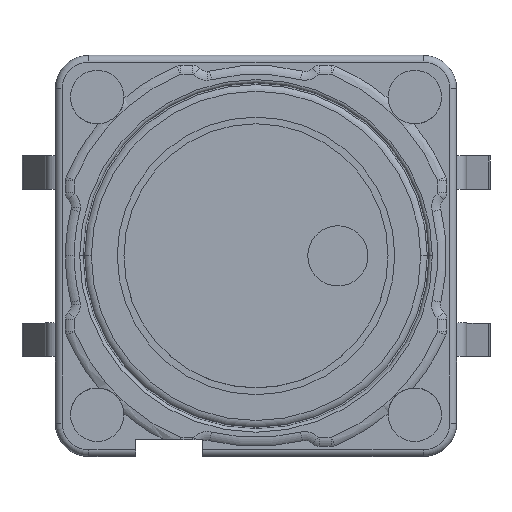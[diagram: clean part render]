
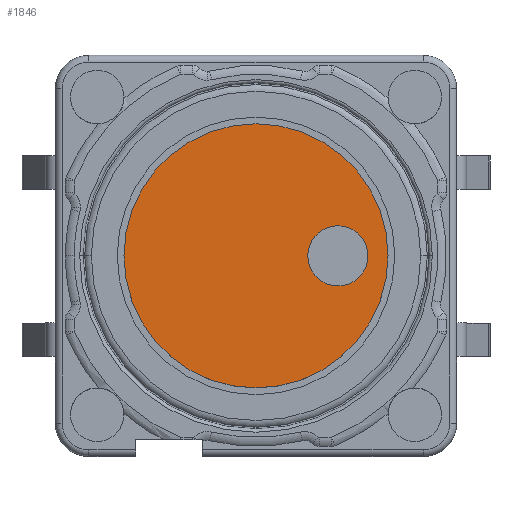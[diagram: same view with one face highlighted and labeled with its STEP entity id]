
A CAD part, top view. The second image highlights one B-rep face of the part: STEP entity #1846.
In plain terms, the highlighted planar face has unit normal (0, 0, 1).
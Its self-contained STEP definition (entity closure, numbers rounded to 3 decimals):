
#1831 = ORIENTED_EDGE ( 'NONE', *, *, #1878, .F. ) ;
#1846 = ADVANCED_FACE ( 'NONE', ( #6845, #6851 ), #8077, .T. ) ;
#1854 = ORIENTED_EDGE ( 'NONE', *, *, #1900, .T. ) ;
#1858 = VERTEX_POINT ( 'NONE', #6878 ) ;
#1863 = EDGE_LOOP ( 'NONE', ( #1831, #1954 ) ) ;
#1874 = VERTEX_POINT ( 'NONE', #6934 ) ;
#1878 = EDGE_CURVE ( 'NONE', #1858, #1874, #6928, .T. ) ;
#1883 = VERTEX_POINT ( 'NONE', #6967 ) ;
#1896 = EDGE_CURVE ( 'NONE', #1883, #1906, #6944, .T. ) ;
#1898 = EDGE_CURVE ( 'NONE', #1874, #1858, #7030, .T. ) ;
#1900 = EDGE_CURVE ( 'NONE', #1906, #1883, #7006, .T. ) ;
#1906 = VERTEX_POINT ( 'NONE', #7050 ) ;
#1908 = EDGE_LOOP ( 'NONE', ( #1937, #1854 ) ) ;
#1937 = ORIENTED_EDGE ( 'NONE', *, *, #1896, .T. ) ;
#1954 = ORIENTED_EDGE ( 'NONE', *, *, #1898, .F. ) ;
#6845 = FACE_BOUND ( 'NONE', #1908, .T. ) ;
#6851 = FACE_OUTER_BOUND ( 'NONE', #1863, .T. ) ;
#6867 = AXIS2_PLACEMENT_3D ( 'NONE', #6926, #6925, #6924 ) ;
#6878 = CARTESIAN_POINT ( 'NONE',  ( -3.95, 0., 4.3 ) ) ;
#6924 = DIRECTION ( 'NONE',  ( -1., 0., 0. ) ) ;
#6925 = DIRECTION ( 'NONE',  ( 0., 0., -1. ) ) ;
#6926 = CARTESIAN_POINT ( 'NONE',  ( 0., 0., 4.3 ) ) ;
#6928 = CIRCLE ( 'NONE', #6867, 3.95 ) ;
#6934 = CARTESIAN_POINT ( 'NONE',  ( 3.95, 0., 4.3 ) ) ;
#6944 = CIRCLE ( 'NONE', #7022, 0.9 ) ;
#6967 = CARTESIAN_POINT ( 'NONE',  ( 3.35, 0., 4.3 ) ) ;
#7003 = DIRECTION ( 'NONE',  ( 1., 0., 0. ) ) ;
#7004 = DIRECTION ( 'NONE',  ( 0., 0., -1. ) ) ;
#7005 = AXIS2_PLACEMENT_3D ( 'NONE', #7014, #7004, #7003 ) ;
#7006 = CIRCLE ( 'NONE', #7005, 0.9 ) ;
#7010 = DIRECTION ( 'NONE',  ( -1., 0., 0. ) ) ;
#7011 = DIRECTION ( 'NONE',  ( 0., 0., -1. ) ) ;
#7014 = CARTESIAN_POINT ( 'NONE',  ( 2.45, 0., 4.3 ) ) ;
#7018 = AXIS2_PLACEMENT_3D ( 'NONE', #7029, #7011, #7010 ) ;
#7019 = DIRECTION ( 'NONE',  ( 1., 0., 0. ) ) ;
#7020 = DIRECTION ( 'NONE',  ( 0., 0., -1. ) ) ;
#7021 = CARTESIAN_POINT ( 'NONE',  ( 2.45, 0., 4.3 ) ) ;
#7022 = AXIS2_PLACEMENT_3D ( 'NONE', #7021, #7020, #7019 ) ;
#7029 = CARTESIAN_POINT ( 'NONE',  ( 0., 0., 4.3 ) ) ;
#7030 = CIRCLE ( 'NONE', #7018, 3.95 ) ;
#7050 = CARTESIAN_POINT ( 'NONE',  ( 1.55, 0., 4.3 ) ) ;
#8069 = AXIS2_PLACEMENT_3D ( 'NONE', #8076, #8075, #8073 ) ;
#8073 = DIRECTION ( 'NONE',  ( 1., 0., 0. ) ) ;
#8075 = DIRECTION ( 'NONE',  ( 0., 0., 1. ) ) ;
#8076 = CARTESIAN_POINT ( 'NONE',  ( 0., 0., 4.3 ) ) ;
#8077 = PLANE ( 'NONE',  #8069 ) ;
